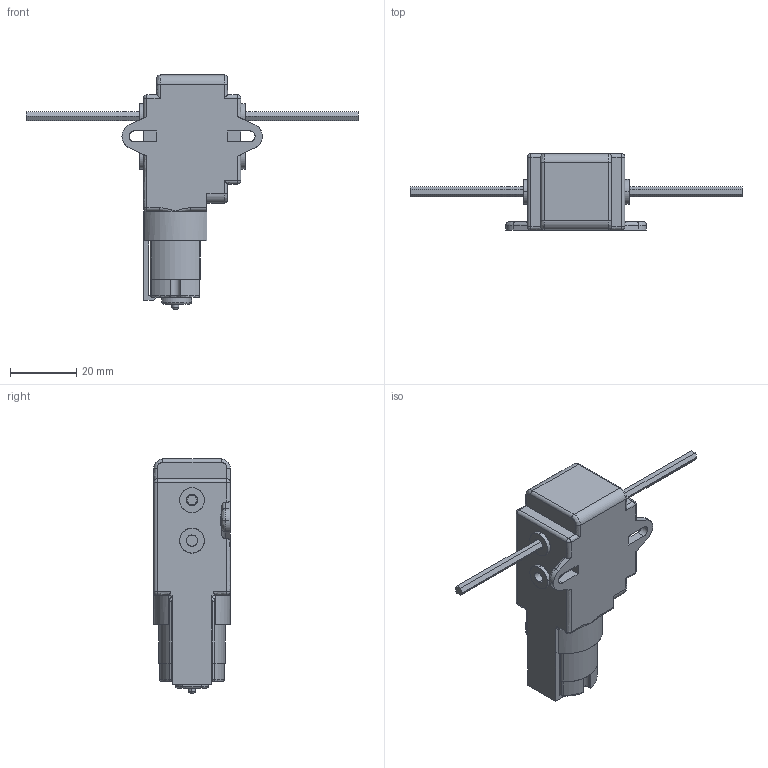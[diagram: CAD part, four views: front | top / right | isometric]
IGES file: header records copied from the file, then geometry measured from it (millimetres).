
Start section: SolidWorks IGES file using analytic representation for surfaces
Global section: file name: C:\Users\AndreBernot\Downloads\K-RACER-L_3D_SW\K-RACER-L_3D_SW\TAM-70167.IGS; native system: SolidWorks 2015; preprocessor: SolidWorks 2015; author: AndreBernot; date: 170922.151705; units: millimetre
Bounding box: 100 x 23 x 70.5 mm (x, y, z)
Surface area: 10937.7 mm2 (no closed solid volume)
Topology: 0 solids, 0 shells, 225 faces, 2536 edges, 2526 vertices
Faces by surface type: bspline 115, revolution 110
